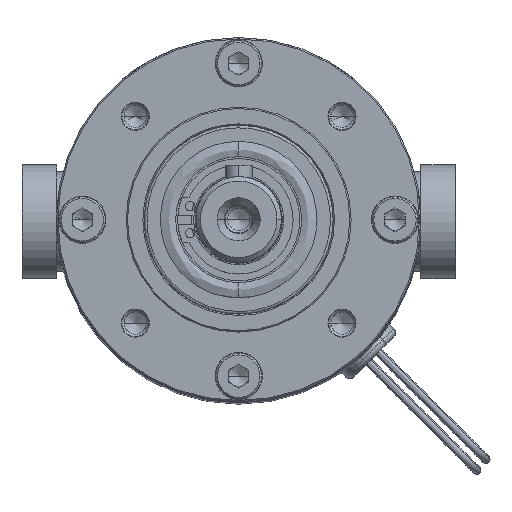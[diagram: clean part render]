
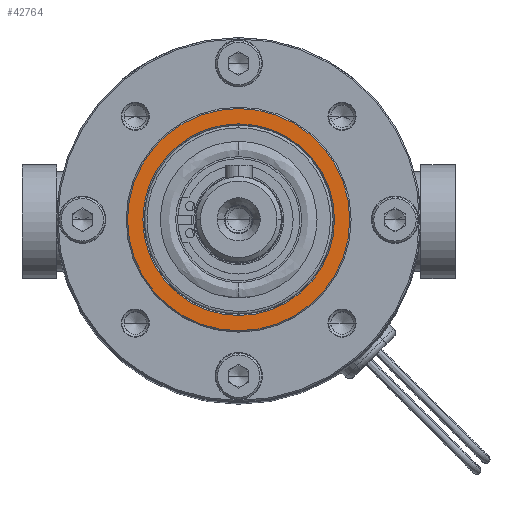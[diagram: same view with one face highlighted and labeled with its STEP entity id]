
A CAD part, top view. The second image highlights one B-rep face of the part: STEP entity #42764.
In plain terms, the highlighted planar face has unit normal (0, 0, 1).
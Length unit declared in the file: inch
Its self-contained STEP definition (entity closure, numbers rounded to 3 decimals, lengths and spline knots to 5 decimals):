
#3054 = VERTEX_POINT ( 'NONE', #11840 ) ;
#3878 = ORIENTED_EDGE ( 'NONE', *, *, #9242, .T. ) ;
#5552 = ORIENTED_EDGE ( 'NONE', *, *, #108063, .F. ) ;
#6995 = CARTESIAN_POINT ( 'NONE',  ( 0., 0., 5.07974 ) ) ;
#7234 = CIRCLE ( 'NONE', #75180, 0.83858 ) ;
#9242 = EDGE_CURVE ( 'NONE', #46549, #9985, #7234, .T. ) ;
#9985 = VERTEX_POINT ( 'NONE', #107250 ) ;
#10131 = DIRECTION ( 'NONE',  ( 0., 0., -1. ) ) ;
#10476 = ORIENTED_EDGE ( 'NONE', *, *, #96849, .T. ) ;
#11840 = CARTESIAN_POINT ( 'NONE',  ( 0.97244, 0., 5.07974 ) ) ;
#16631 = CARTESIAN_POINT ( 'NONE',  ( -0.83858, 0., 5.07974 ) ) ;
#17498 = DIRECTION ( 'NONE',  ( -1., 0., 0. ) ) ;
#20965 = CARTESIAN_POINT ( 'NONE',  ( -0.97244, 0., 5.07974 ) ) ;
#21264 = DIRECTION ( 'NONE',  ( 0., 0., -1. ) ) ;
#23271 = EDGE_LOOP ( 'NONE', ( #5552, #102683 ) ) ;
#23449 = CIRCLE ( 'NONE', #52989, 0.83858 ) ;
#25861 = EDGE_CURVE ( 'NONE', #3054, #41389, #61289, .T. ) ;
#26348 = DIRECTION ( 'NONE',  ( 0., 0., -1. ) ) ;
#41389 = VERTEX_POINT ( 'NONE', #20965 ) ;
#42764 = ADVANCED_FACE ( 'NONE', ( #102861, #47546 ), #121118, .T. ) ;
#45474 = CIRCLE ( 'NONE', #76020, 0.97244 ) ;
#46549 = VERTEX_POINT ( 'NONE', #16631 ) ;
#47546 = FACE_OUTER_BOUND ( 'NONE', #23271, .T. ) ;
#52989 = AXIS2_PLACEMENT_3D ( 'NONE', #83565, #21264, #94016 ) ;
#59228 = CARTESIAN_POINT ( 'NONE',  ( 0., 0., 5.07974 ) ) ;
#61289 = CIRCLE ( 'NONE', #132718, 0.97244 ) ;
#69688 = DIRECTION ( 'NONE',  ( 1., 0., 0. ) ) ;
#72490 = CARTESIAN_POINT ( 'NONE',  ( 0., 0., 5.07974 ) ) ;
#75180 = AXIS2_PLACEMENT_3D ( 'NONE', #72490, #10131, #82899 ) ;
#76020 = AXIS2_PLACEMENT_3D ( 'NONE', #88663, #26348, #99113 ) ;
#79812 = DIRECTION ( 'NONE',  ( 0., 0., -1. ) ) ;
#82899 = DIRECTION ( 'NONE',  ( 1., 0., 0. ) ) ;
#83565 = CARTESIAN_POINT ( 'NONE',  ( 0., 0., 5.07974 ) ) ;
#88663 = CARTESIAN_POINT ( 'NONE',  ( 0., 0., 5.07974 ) ) ;
#94016 = DIRECTION ( 'NONE',  ( 1., 0., 0. ) ) ;
#96849 = EDGE_CURVE ( 'NONE', #9985, #46549, #23449, .T. ) ;
#99113 = DIRECTION ( 'NONE',  ( -1., 0., 0. ) ) ;
#99627 = AXIS2_PLACEMENT_3D ( 'NONE', #59228, #132005, #69688 ) ;
#101515 = EDGE_LOOP ( 'NONE', ( #10476, #3878 ) ) ;
#102683 = ORIENTED_EDGE ( 'NONE', *, *, #25861, .F. ) ;
#102861 = FACE_BOUND ( 'NONE', #101515, .T. ) ;
#107250 = CARTESIAN_POINT ( 'NONE',  ( 0.83858, 0., 5.07974 ) ) ;
#108063 = EDGE_CURVE ( 'NONE', #41389, #3054, #45474, .T. ) ;
#121118 = PLANE ( 'NONE',  #99627 ) ;
#132005 = DIRECTION ( 'NONE',  ( 0., 0., 1. ) ) ;
#132718 = AXIS2_PLACEMENT_3D ( 'NONE', #6995, #79812, #17498 ) ;
